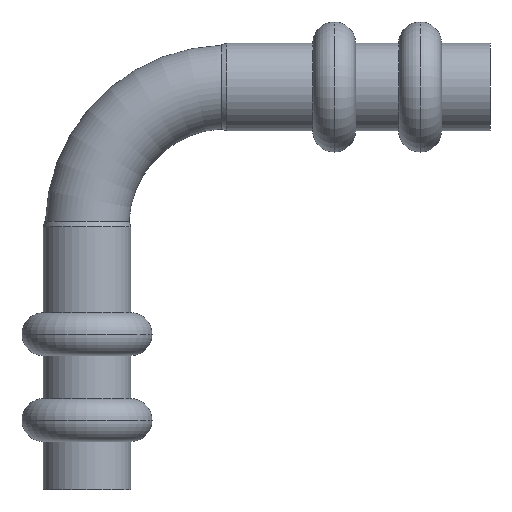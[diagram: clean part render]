
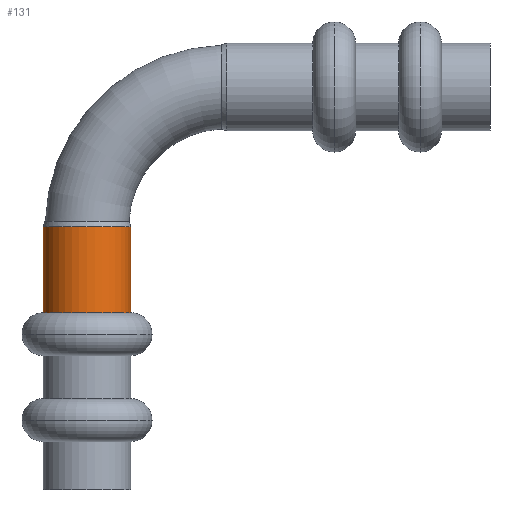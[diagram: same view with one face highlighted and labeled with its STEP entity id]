
A CAD part, front view. The second image highlights one B-rep face of the part: STEP entity #131.
In plain terms, the highlighted cylindrical face has radius 4.075 mm (diameter 8.15 mm), a partial arc.
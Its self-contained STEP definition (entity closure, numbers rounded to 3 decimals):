
#131=ADVANCED_FACE('',(#307),#308,.T.);
#307=FACE_OUTER_BOUND('',#543,.T.);
#308=CYLINDRICAL_SURFACE('',#544,4.075);
#543=EDGE_LOOP('',(#863,#864,#865,#866));
#544=AXIS2_PLACEMENT_3D('',#867,#868,#869);
#863=ORIENTED_EDGE('',*,*,#1356,.F.);
#864=ORIENTED_EDGE('',*,*,#1357,.T.);
#865=ORIENTED_EDGE('',*,*,#1358,.F.);
#866=ORIENTED_EDGE('',*,*,#1359,.F.);
#867=CARTESIAN_POINT('',(0.,0.0,20.5));
#868=DIRECTION('',(0.,0.0,-1.0));
#869=DIRECTION('',(1.0,0.0,0.));
#1356=EDGE_CURVE('',#1611,#1612,#1613,.T.);
#1357=EDGE_CURVE('',#1611,#1614,#1615,.T.);
#1358=EDGE_CURVE('',#1616,#1614,#1617,.T.);
#1359=EDGE_CURVE('',#1612,#1616,#1618,.T.);
#1611=VERTEX_POINT('',#2040);
#1612=VERTEX_POINT('',#2041);
#1613=LINE('',#2042,#2043);
#1614=VERTEX_POINT('',#2044);
#1615=CIRCLE('',#2045,4.075);
#1616=VERTEX_POINT('',#2046);
#1617=LINE('',#2047,#2048);
#1618=CIRCLE('',#2049,4.075);
#2040=CARTESIAN_POINT('',(4.075,0.,24.5));
#2041=CARTESIAN_POINT('',(4.075,0.,16.5));
#2042=CARTESIAN_POINT('',(4.075,0.,20.5));
#2043=VECTOR('',#2524,1.0);
#2044=CARTESIAN_POINT('',(-4.075,0.,24.5));
#2045=AXIS2_PLACEMENT_3D('',#2525,#2526,#2527);
#2046=CARTESIAN_POINT('',(-4.075,0.,16.5));
#2047=CARTESIAN_POINT('',(-4.075,0.,20.5));
#2048=VECTOR('',#2528,1.0);
#2049=AXIS2_PLACEMENT_3D('',#2529,#2530,#2531);
#2524=DIRECTION('',(0.,0.0,-1.0));
#2525=CARTESIAN_POINT('',(0.,0.0,24.5));
#2526=DIRECTION('',(0.,0.0,-1.0));
#2527=DIRECTION('',(1.0,0.0,0.));
#2528=DIRECTION('',(0.,-0.0,1.0));
#2529=CARTESIAN_POINT('',(0.,0.0,16.5));
#2530=DIRECTION('',(0.,0.0,-1.0));
#2531=DIRECTION('',(1.0,0.0,0.));
